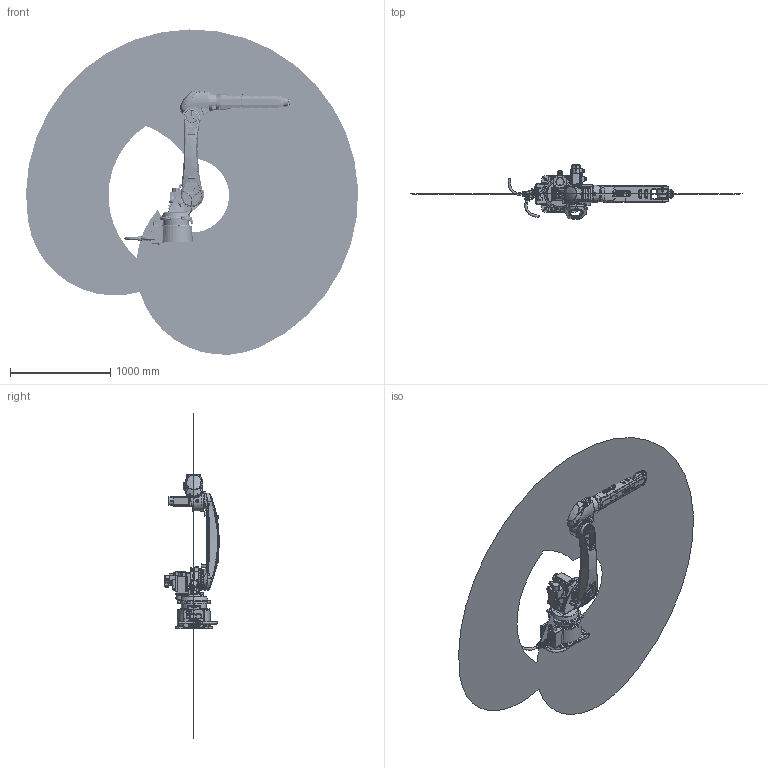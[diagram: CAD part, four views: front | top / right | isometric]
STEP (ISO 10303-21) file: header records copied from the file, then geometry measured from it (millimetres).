
FILE_DESCRIPTION(/* description */ (''),/* implementation_level */ '2;1');
FILE_NAME(/* name */ 'NB25s-2518 简化模型.stp',/* time_stamp */ '2022-12-21T14:56:33+08:00',/* author */ (''),/* organization */ (''),/* preprocessor_version */ 'ST-DEVELOPER v16',/* originating_system */ 'SIEMENS PLM Software NX 10.0',/* authorisation */ '');
FILE_SCHEMA (('CONFIG_CONTROL_DESIGN'));
Products named in the file (9): NB25s-3Dwork-C; NB25s-shuchu-A; NB25s-shouwan-A; NB25s-xiaobiqian-Blogo; NB25s-xiaobihou-A; NB25s-dabi-A; NB25s-yao-A; NB25s-base-A; NB25s-2518 简化模型_stp
Assembly tree (8 placements, depth 2):
  NB25s-2518 简化模型_stp
    NB25s-base-A
    NB25s-yao-A
    NB25s-dabi-A
    NB25s-xiaobihou-A
    NB25s-xiaobiqian-Blogo
    NB25s-shouwan-A
    NB25s-shuchu-A
    NB25s-3Dwork-C
Bounding box: 3304.03 x 541.74 x 3235.66 mm (x, y, z)
Volume: 75782225.3 mm3; surface area: 10552068.5 mm2
Topology: 9 solids, 39 shells, 6034 faces, 14823 edges, 9162 vertices
Faces by surface type: plane 2172, cylinder 1479, bspline 1090, cone 461, torus 367, extrusion 347, sphere 118
Full cylindrical faces by diameter (mm): 2.5 x4, 3.3 x10, 4.2 x8, 4.75 x4, 5 x20, 5.1 x4, 5.13 x8, 5.5 x42, 5.6 x15, 6 x1, 6.6 x2, 6.725 x4, 6.8 x20, 7 x71, 7.782 x2, 8.5 x2, 9.728 x2, 9.732 x2, 10 x24, 10.272 x2, 10.3 x8, 11 x4, 11.2 x1, 12.42 x1, 13 x27, 13.5 x1, 14 x17, 15 x2, 16 x42, 18 x5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
Entity records: 231112 total; most frequent: CARTESIAN_POINT 101626, ORIENTED_EDGE 27041, DIRECTION 24483, EDGE_CURVE 13524, AXIS2_PLACEMENT_3D 9362, VERTEX_POINT 8786, EDGE_LOOP 7273, ADVANCED_FACE 6034
